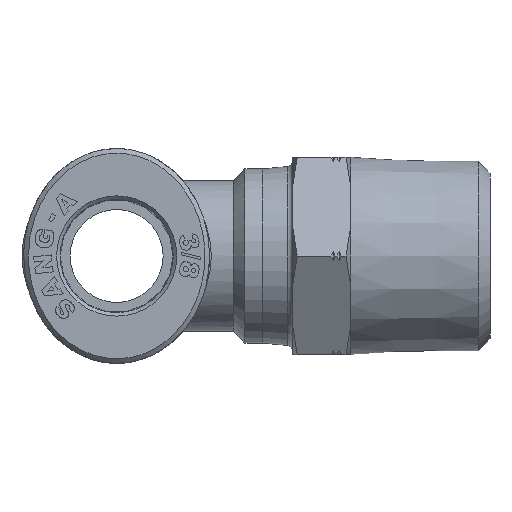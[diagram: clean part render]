
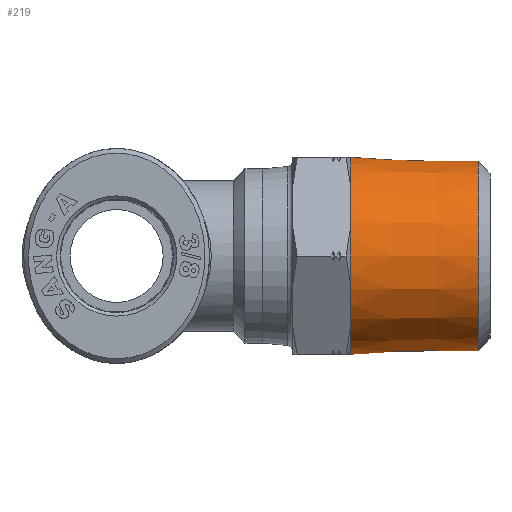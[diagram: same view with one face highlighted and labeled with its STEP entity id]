
A CAD part, left-side view. The second image highlights one B-rep face of the part: STEP entity #219.
In plain terms, the highlighted conical face has half-angle 1.754 degrees and reference radius 8.316 mm.
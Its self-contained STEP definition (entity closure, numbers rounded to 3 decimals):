
#112=CARTESIAN_POINT('',(8.163,1.,0.));
#113=VERTEX_POINT('',#112);
#114=CARTESIAN_POINT('',(0.,1.,0.));
#115=DIRECTION('',(0.0,-1.0,0.0));
#116=DIRECTION('',(-1.0,0.0,0.0));
#117=AXIS2_PLACEMENT_3D('',#114,#115,#116);
#118=CIRCLE('',#117,8.163);
#119=EDGE_CURVE('',#113,#113,#118,.T.);
#155=CARTESIAN_POINT('',(0.,6.0,0.0));
#156=DIRECTION('',(0.,1.0,0.0));
#157=DIRECTION('',(1.0,0.0,0.0));
#158=AXIS2_PLACEMENT_3D('',#155,#156,#157);
#159=CONICAL_SURFACE('',#158,8.316,1.754);
#160=CARTESIAN_POINT('',(7.361,12.,-4.25));
#161=VERTEX_POINT('',#160);
#162=CARTESIAN_POINT('',(7.361,12.0,4.25));
#163=VERTEX_POINT('',#162);
#164=CARTESIAN_POINT('',(0.,12.0,0.0));
#165=DIRECTION('',(0.0,-1.0,0.0));
#166=DIRECTION('',(1.0,0.0,0.0));
#167=AXIS2_PLACEMENT_3D('',#164,#165,#166);
#168=CIRCLE('',#167,8.5);
#169=EDGE_CURVE('',#161,#163,#168,.T.);
#170=ORIENTED_EDGE('',*,*,#169,.T.);
#171=CARTESIAN_POINT('',(0.,12.,8.5));
#172=VERTEX_POINT('',#171);
#173=CARTESIAN_POINT('',(0.,12.0,0.0));
#174=DIRECTION('',(0.0,-1.0,0.0));
#175=DIRECTION('',(1.0,0.0,0.0));
#176=AXIS2_PLACEMENT_3D('',#173,#174,#175);
#177=CIRCLE('',#176,8.5);
#178=EDGE_CURVE('',#163,#172,#177,.T.);
#179=ORIENTED_EDGE('',*,*,#178,.T.);
#180=CARTESIAN_POINT('',(-7.361,12.0,4.25));
#181=VERTEX_POINT('',#180);
#182=CARTESIAN_POINT('',(0.,12.0,0.0));
#183=DIRECTION('',(0.0,-1.0,0.0));
#184=DIRECTION('',(1.0,0.0,0.0));
#185=AXIS2_PLACEMENT_3D('',#182,#183,#184);
#186=CIRCLE('',#185,8.5);
#187=EDGE_CURVE('',#172,#181,#186,.T.);
#188=ORIENTED_EDGE('',*,*,#187,.T.);
#189=CARTESIAN_POINT('',(-7.361,12.0,-4.25));
#190=VERTEX_POINT('',#189);
#191=CARTESIAN_POINT('',(0.,12.0,0.0));
#192=DIRECTION('',(0.0,-1.0,0.0));
#193=DIRECTION('',(1.0,0.0,0.0));
#194=AXIS2_PLACEMENT_3D('',#191,#192,#193);
#195=CIRCLE('',#194,8.5);
#196=EDGE_CURVE('',#181,#190,#195,.T.);
#197=ORIENTED_EDGE('',*,*,#196,.T.);
#198=CARTESIAN_POINT('',(0.,12.0,-8.5));
#199=VERTEX_POINT('',#198);
#200=CARTESIAN_POINT('',(0.,12.0,0.0));
#201=DIRECTION('',(0.0,-1.0,0.0));
#202=DIRECTION('',(1.0,0.0,0.0));
#203=AXIS2_PLACEMENT_3D('',#200,#201,#202);
#204=CIRCLE('',#203,8.5);
#205=EDGE_CURVE('',#190,#199,#204,.T.);
#206=ORIENTED_EDGE('',*,*,#205,.T.);
#207=CARTESIAN_POINT('',(0.,12.0,0.0));
#208=DIRECTION('',(0.0,-1.0,0.0));
#209=DIRECTION('',(1.0,0.0,0.0));
#210=AXIS2_PLACEMENT_3D('',#207,#208,#209);
#211=CIRCLE('',#210,8.5);
#212=EDGE_CURVE('',#199,#161,#211,.T.);
#213=ORIENTED_EDGE('',*,*,#212,.T.);
#214=EDGE_LOOP('',(#170,#179,#188,#197,#206,#213));
#215=FACE_OUTER_BOUND('',#214,.T.);
#216=ORIENTED_EDGE('',*,*,#119,.F.);
#217=EDGE_LOOP('',(#216));
#218=FACE_BOUND('',#217,.T.);
#219=ADVANCED_FACE('',(#215,#218),#159,.T.);
